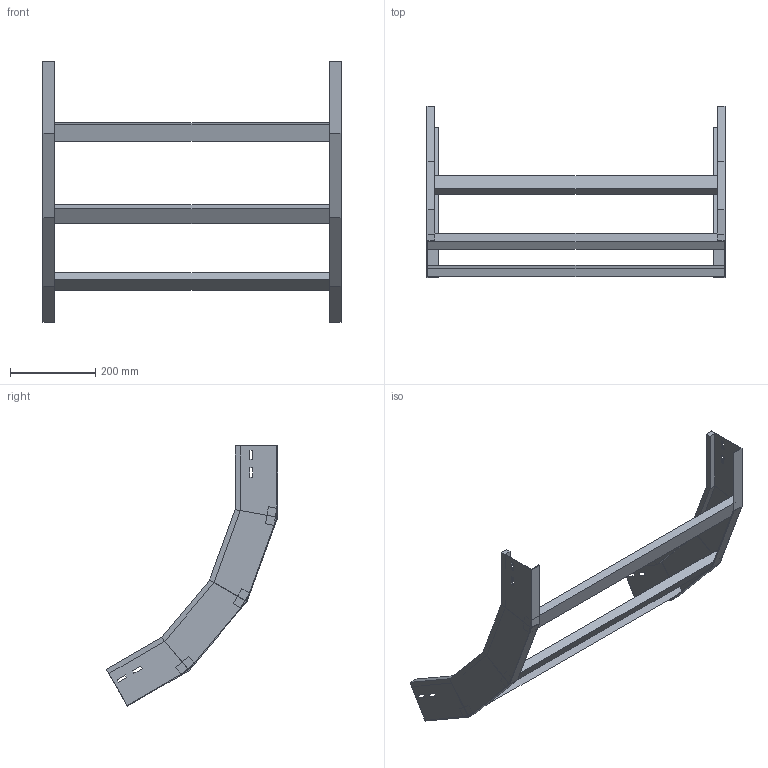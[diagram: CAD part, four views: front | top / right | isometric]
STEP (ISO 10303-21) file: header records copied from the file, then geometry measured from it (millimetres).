
FILE_DESCRIPTION (( 'STEP AP214' ), '1' );
FILE_NAME ('B2X40B5D700XX.step', '2025-03-20T10:13:42', ( '' ), ( '' ), 'SwSTEP 2.0', 'SolidWorks 2023', '' );
FILE_SCHEMA (( 'AUTOMOTIVE_DESIGN' ));
Length unit declared in the file: millimetre
Products named in the file (3): B2X40B5D700XX; TRAVERSINO_700; LONGH.SALITA_60°_H100_R500
Assembly tree (5 placements, depth 2):
  B2X40B5D700XX
    LONGH.SALITA_60°_H100_R500  x2
    TRAVERSINO_700  x3
Bounding box: 700 x 402.87 x 611.18 mm (x, y, z)
Volume: 2298550.8 mm3; surface area: 662691.1 mm2
Topology: 5 solids, 5 shells, 118 faces, 276 edges, 168 vertices
Faces by surface type: plane 118
Entity records: 1672 total; most frequent: CARTESIAN_POINT 276, ORIENTED_EDGE 264, DIRECTION 260, EDGE_CURVE 132, LINE 132, VECTOR 132, VERTEX_POINT 80, EDGE_LOOP 64
